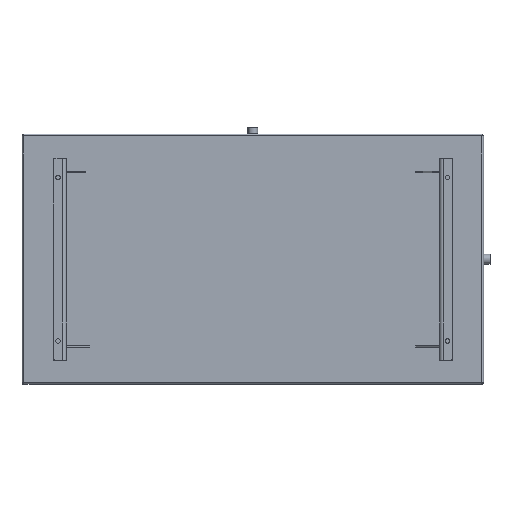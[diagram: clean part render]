
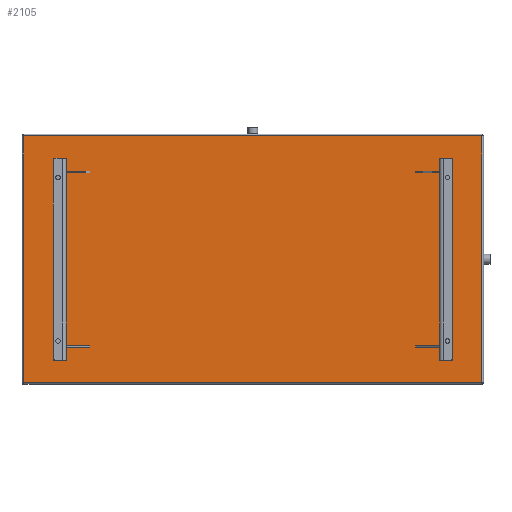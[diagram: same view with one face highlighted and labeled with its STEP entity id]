
A CAD part, front view. The second image highlights one B-rep face of the part: STEP entity #2105.
In plain terms, the highlighted planar face has unit normal (0, -1, 0).
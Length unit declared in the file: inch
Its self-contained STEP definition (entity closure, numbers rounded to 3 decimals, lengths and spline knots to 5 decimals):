
#15 = LINE ( 'NONE', #145, #4820 ) ;
#108 = DIRECTION ( 'NONE',  ( 0., 0., -1. ) ) ;
#122 = DIRECTION ( 'NONE',  ( 0., -1., 0. ) ) ;
#128 = PLANE ( 'NONE',  #494 ) ;
#142 = DIRECTION ( 'NONE',  ( 1., 0., 0. ) ) ;
#145 = CARTESIAN_POINT ( 'NONE',  ( -41.7961, -4.42475, -13.9687 ) ) ;
#200 = CARTESIAN_POINT ( 'NONE',  ( -41.95105, -4.42475, -14.2453 ) ) ;
#494 = AXIS2_PLACEMENT_3D ( 'NONE', #200, #122, #108 ) ;
#526 = CARTESIAN_POINT ( 'NONE',  ( -41.67445, -4.42475, 24.4781 ) ) ;
#674 = VECTOR ( 'NONE', #5432, 39.37008 ) ;
#866 = ORIENTED_EDGE ( 'NONE', *, *, #1436, .T. ) ;
#1246 = EDGE_CURVE ( 'NONE', #2659, #2420, #15, .T. ) ;
#1366 = EDGE_CURVE ( 'NONE', #5056, #2659, #2274, .T. ) ;
#1436 = EDGE_CURVE ( 'NONE', #1666, #5056, #4190, .T. ) ;
#1439 = EDGE_CURVE ( 'NONE', #2420, #1666, #5047, .T. ) ;
#1492 = FACE_OUTER_BOUND ( 'NONE', #4940, .T. ) ;
#1666 = VERTEX_POINT ( 'NONE', #3725 ) ;
#2105 = ADVANCED_FACE ( 'NONE', ( #1492 ), #128, .T. ) ;
#2152 = DIRECTION ( 'NONE',  ( 0., 0., -1. ) ) ;
#2274 = LINE ( 'NONE', #2321, #4256 ) ;
#2321 = CARTESIAN_POINT ( 'NONE',  ( -41.67445, -4.42475, 24.59975 ) ) ;
#2420 = VERTEX_POINT ( 'NONE', #3237 ) ;
#2659 = VERTEX_POINT ( 'NONE', #2677 ) ;
#2677 = CARTESIAN_POINT ( 'NONE',  ( -41.67445, -4.42475, -13.9687 ) ) ;
#2750 = ORIENTED_EDGE ( 'NONE', *, *, #1246, .T. ) ;
#3237 = CARTESIAN_POINT ( 'NONE',  ( 29.77235, -4.42475, -13.9687 ) ) ;
#3240 = VECTOR ( 'NONE', #5314, 39.37008 ) ;
#3725 = CARTESIAN_POINT ( 'NONE',  ( 29.77235, -4.42475, 24.4781 ) ) ;
#4190 = LINE ( 'NONE', #5439, #674 ) ;
#4256 = VECTOR ( 'NONE', #2152, 39.37008 ) ;
#4635 = ORIENTED_EDGE ( 'NONE', *, *, #1439, .T. ) ;
#4747 = ORIENTED_EDGE ( 'NONE', *, *, #1366, .T. ) ;
#4820 = VECTOR ( 'NONE', #142, 39.37008 ) ;
#4940 = EDGE_LOOP ( 'NONE', ( #4635, #866, #4747, #2750 ) ) ;
#5047 = LINE ( 'NONE', #5426, #3240 ) ;
#5056 = VERTEX_POINT ( 'NONE', #526 ) ;
#5314 = DIRECTION ( 'NONE',  ( 0., 0., 1. ) ) ;
#5426 = CARTESIAN_POINT ( 'NONE',  ( 29.77235, -4.42475, -14.09034 ) ) ;
#5432 = DIRECTION ( 'NONE',  ( -1., 0., 0. ) ) ;
#5439 = CARTESIAN_POINT ( 'NONE',  ( 29.89399, -4.42475, 24.4781 ) ) ;
